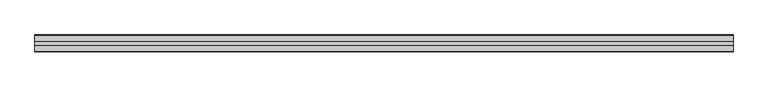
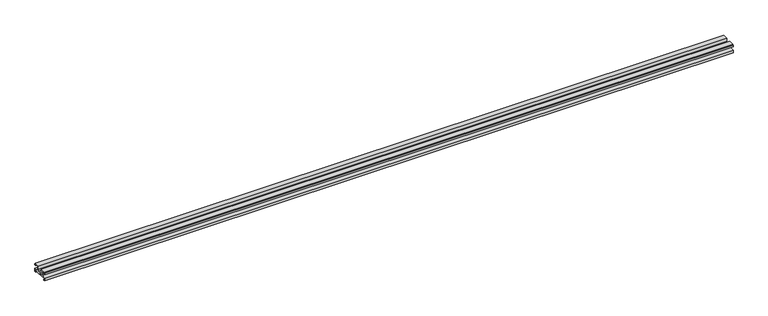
"""IFC4 building model written with IfcOpenShell, lengths in millimetres: proxy geometry, Weiku - Montante - Acoplamento vidro : Weiku - Montante - Acoplamento vidro."""

from ifc_helpers import new_model, si_unit, frame, origin, place, context, project, spatial, polyline, outline, extrude, source, transform, mapped, element, save


def generic_models_a273f5d0(model_context):
    return source(origin(), model_context, "Body", "SweptSolid", [
        extrude(outline(polyline([(35.405, 5.1494), (12.495, 5.1494), (12.495, 6.8004), (2.159, 6.8004), (2.159, 2.6094), (4.0216, 2.6094), (4.0216, 0.0), (-0.0014508, 0.0), (-0.0014508, 8.79), (12.954, 8.79), (12.954, 23.3104), (4.3603, 23.3104), (4.3603, 19.204), (0.0, 19.204), (0.0, 22.8024), (0.9736, 22.8024), (0.9736, 20.3894), (3.175, 20.3894), (3.175, 23.9454), (2.3735496, 23.9454), (2.3735496, 25.3), (17.4836, 25.3), (17.4836, 16.283), (15.4516, 16.283), (15.4516, 8.8), (32.4484, 8.8), (32.4484, 16.283), (30.4164, 16.283), (30.4164, 25.3), (45.5264504, 25.3), (45.5264504, 23.9454), (44.725, 23.9454), (44.725, 20.3894), (46.9264, 20.3894), (46.9264, 22.8024), (47.9, 22.8024), (47.9, 19.204), (43.5397, 19.204), (43.5397, 23.3104), (34.946, 23.3104), (34.946, 8.79), (47.9014508, 8.79), (47.9014508, 0.0), (43.8784, 0.0), (43.8784, 2.6094), (45.741, 2.6094), (45.741, 6.8004), (35.405, 6.8004), (35.405, 5.1494)])), frame((-978.95, 0.0, 0.0), z_axis=(1.0, 0.0, 0.0), x_axis=(0.0, 1.0, 0.0)), (0.0, 0.0, 1.0), 1957.9),
    ])


if __name__ == "__main__":
    model = new_model("IFC4")
    model_context = context("Model", 3, world=origin())
    ifc_project = project(units=[si_unit("LENGTHUNIT", "METRE", prefix="MILLI")], contexts=[model_context])
    site = spatial("IfcSite", under=ifc_project)
    building = spatial("IfcBuilding", under=site)
    placement = place(None, origin())
    generic_models_shape = generic_models_a273f5d0(model_context)
    element("IfcBuildingElementProxy", 1, Name="Weiku - Montante - Acoplamento vidro : Weiku - Montante - Acoplamento vidro", ObjectType="Weiku - Montante - Acoplamento vidro : Weiku - Montante - Acoplamento vidro", at=placement, inside=building, context=model_context, shape_type="MappedRepresentation", body=[
        mapped(generic_models_shape, transform((0.0, 0.0, 0.0), x_axis=(1.0, 0.0, 0.0), y_axis=(0.0, 1.0, 0.0), z_axis=(0.0, 0.0, 1.0))),
    ])
    save(model, "model.ifc")
